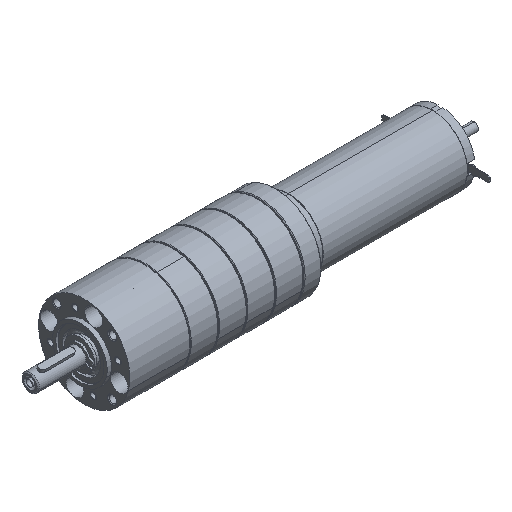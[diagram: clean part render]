
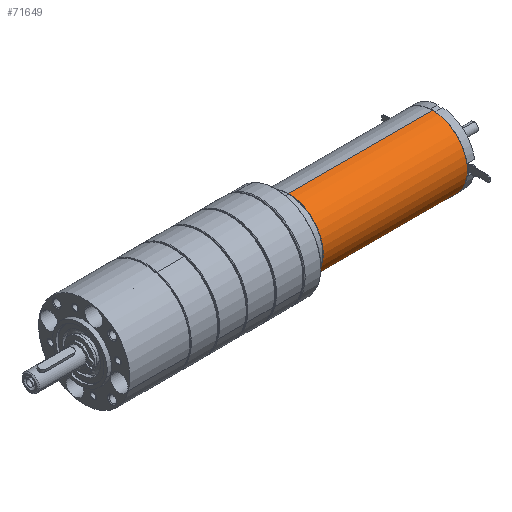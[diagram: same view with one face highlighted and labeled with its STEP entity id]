
A CAD part, isometric view. The second image highlights one B-rep face of the part: STEP entity #71649.
In plain terms, the highlighted cylindrical face has radius 16 mm (diameter 32 mm), a partial arc.
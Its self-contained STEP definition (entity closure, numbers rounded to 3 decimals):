
#2178 = EDGE_CURVE ( 'NONE', #14990, #64124, #31050, .T. ) ;
#2985 = CARTESIAN_POINT ( 'NONE',  ( 38.9, 0., 16. ) ) ;
#3481 = CYLINDRICAL_SURFACE ( 'NONE', #50287, 16. ) ;
#5591 = ORIENTED_EDGE ( 'NONE', *, *, #19103, .T. ) ;
#8463 = VERTEX_POINT ( 'NONE', #73204 ) ;
#9804 = AXIS2_PLACEMENT_3D ( 'NONE', #24628, #68804, #30935 ) ;
#14003 = VECTOR ( 'NONE', #75607, 1000. ) ;
#14990 = VERTEX_POINT ( 'NONE', #65307 ) ;
#16078 = ORIENTED_EDGE ( 'NONE', *, *, #38851, .F. ) ;
#16258 = CIRCLE ( 'NONE', #46122, 16. ) ;
#19103 = EDGE_CURVE ( 'NONE', #64124, #79737, #67990, .T. ) ;
#24628 = CARTESIAN_POINT ( 'NONE',  ( 72., 0., 0. ) ) ;
#25267 = CARTESIAN_POINT ( 'NONE',  ( 5.8, 0., 16. ) ) ;
#29845 = ORIENTED_EDGE ( 'NONE', *, *, #30108, .T. ) ;
#30108 = EDGE_CURVE ( 'NONE', #79737, #8463, #16258, .T. ) ;
#30935 = DIRECTION ( 'NONE',  ( 0., 0., 1. ) ) ;
#31050 = CIRCLE ( 'NONE', #9804, 16. ) ;
#31949 = CARTESIAN_POINT ( 'NONE',  ( 38.9, 0., -16. ) ) ;
#33170 = DIRECTION ( 'NONE',  ( -1., 0., 0. ) ) ;
#37229 = CARTESIAN_POINT ( 'NONE',  ( 5.8, 0., 0. ) ) ;
#38851 = EDGE_CURVE ( 'NONE', #14990, #8463, #62550, .T. ) ;
#39560 = CARTESIAN_POINT ( 'NONE',  ( 38.9, 0., 0. ) ) ;
#43587 = DIRECTION ( 'NONE',  ( 0., 0., 1. ) ) ;
#45928 = DIRECTION ( 'NONE',  ( -1., 0., 0. ) ) ;
#46122 = AXIS2_PLACEMENT_3D ( 'NONE', #37229, #81429, #43587 ) ;
#50287 = AXIS2_PLACEMENT_3D ( 'NONE', #39560, #33170, #77660 ) ;
#51219 = VECTOR ( 'NONE', #45928, 1000. ) ;
#55376 = EDGE_LOOP ( 'NONE', ( #16078, #57027, #5591, #29845 ) ) ;
#57027 = ORIENTED_EDGE ( 'NONE', *, *, #2178, .T. ) ;
#62550 = LINE ( 'NONE', #31949, #14003 ) ;
#64124 = VERTEX_POINT ( 'NONE', #70843 ) ;
#65307 = CARTESIAN_POINT ( 'NONE',  ( 72., 0., -16. ) ) ;
#67990 = LINE ( 'NONE', #2985, #51219 ) ;
#68804 = DIRECTION ( 'NONE',  ( -1., 0., 0. ) ) ;
#70843 = CARTESIAN_POINT ( 'NONE',  ( 72., 0., 16. ) ) ;
#71649 = ADVANCED_FACE ( 'NONE', ( #76756 ), #3481, .T. ) ;
#73204 = CARTESIAN_POINT ( 'NONE',  ( 5.8, 0., -16. ) ) ;
#75607 = DIRECTION ( 'NONE',  ( -1., 0., 0. ) ) ;
#76756 = FACE_OUTER_BOUND ( 'NONE', #55376, .T. ) ;
#77660 = DIRECTION ( 'NONE',  ( 0., 0., 1. ) ) ;
#79737 = VERTEX_POINT ( 'NONE', #25267 ) ;
#81429 = DIRECTION ( 'NONE',  ( 1., 0., 0. ) ) ;
